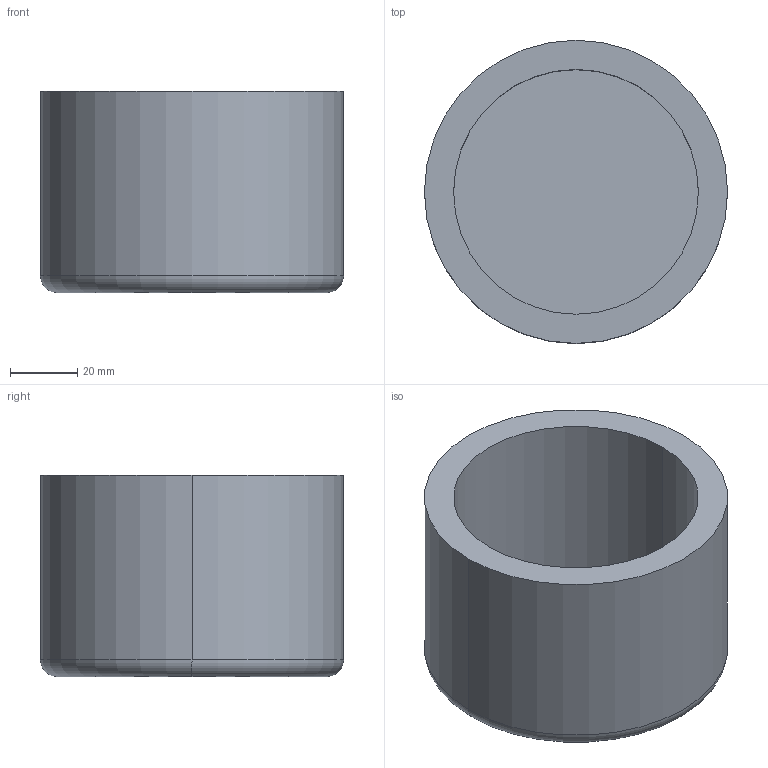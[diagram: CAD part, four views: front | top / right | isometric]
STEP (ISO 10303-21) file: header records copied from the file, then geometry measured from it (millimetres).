
FILE_DESCRIPTION (( 'STEP AP203' ), '1' );
FILE_NAME ('KP_10-90.step', '2011-08-08T11:42:03', ( '' ), ( '' ), 'SwSTEP 2.0', 'SolidWorks 2011', '' );
FILE_SCHEMA (( 'CONFIG_CONTROL_DESIGN' ));
Length unit declared in the file: millimetre
Products named in the file (1): KP_10-90
Bounding box: 90.4 x 90.4 x 60 mm (x, y, z)
Volume: 168070.5 mm3; surface area: 41067 mm2
Topology: 1 solids, 1 shells, 9 faces, 16 edges, 10 vertices
Faces by surface type: cylinder 4, plane 3, torus 2
Entity records: 303 total; most frequent: DIRECTION 48, CARTESIAN_POINT 36, ORIENTED_EDGE 32, AXIS2_PLACEMENT_3D 22, EDGE_CURVE 16, CIRCLE 12, VERTEX_POINT 10, EDGE_LOOP 10
